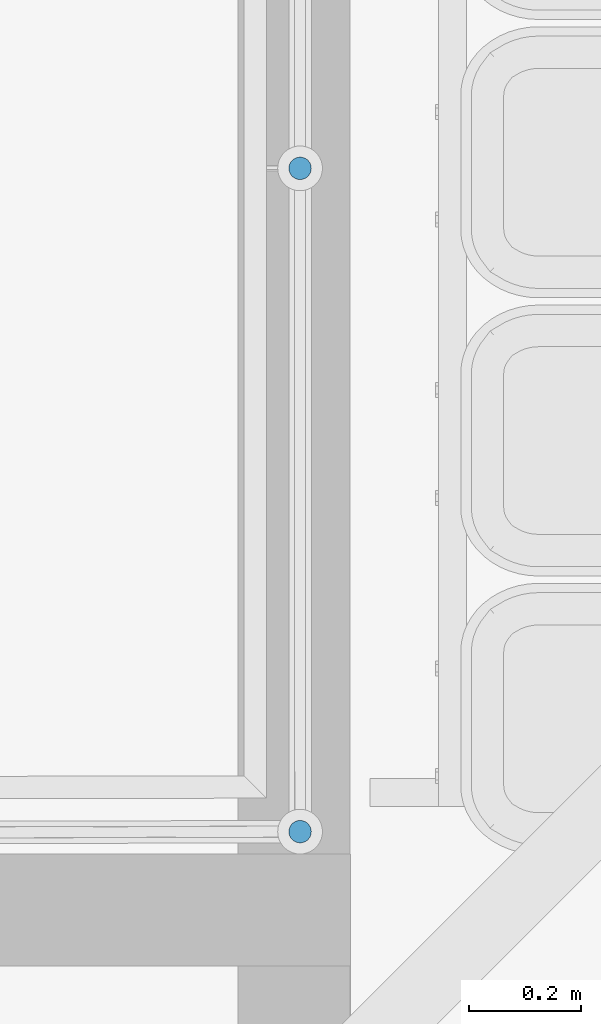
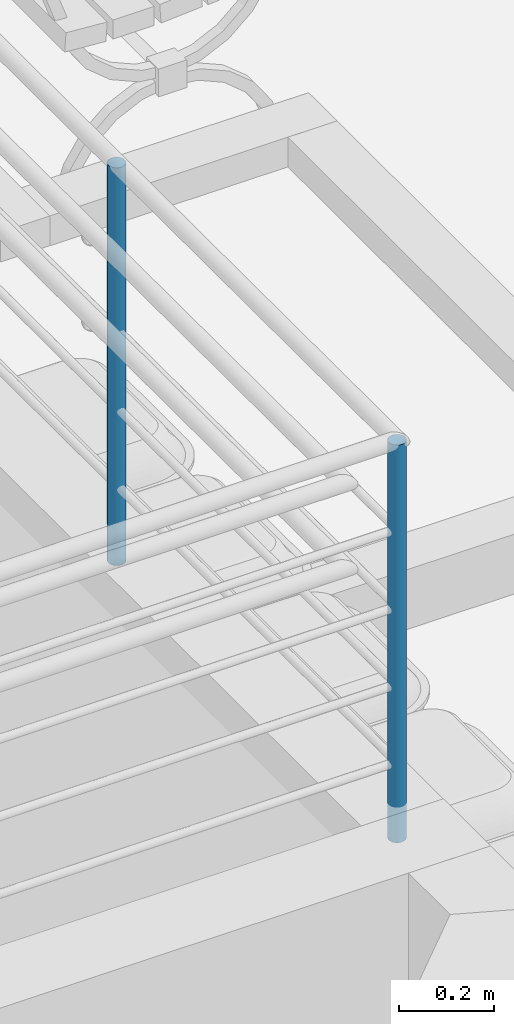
# One storey, part 70 of 237: 2 building element parts, 1 element without a shape of its own.
"""IFC2X3 building model written with IfcOpenShell, lengths in millimetres."""

from ifc_helpers import new_model, entity, si_unit, converted_unit, derived_unit, money_unit, direction, frame, origin_with_axes, place, context, subcontext, project, spatial, faceted_brep, material, type_object, element, aggregate, save


model = new_model("IFC2X3")

# Units and contexts
model_context = context("Model", 3, precision=0.01, world=origin_with_axes(), true_north=direction((0.0, 1.0)))
body_context = subcontext(model_context, "Body", "Model", "MODEL_VIEW")
ifc_project = project(units=[si_unit("LENGTHUNIT", "METRE", prefix="MILLI"), si_unit("AREAUNIT", "SQUARE_METRE"), si_unit("VOLUMEUNIT", "CUBIC_METRE"), converted_unit("PLANEANGLEUNIT", "DEGREE", entity("IfcPlaneAngleMeasure", 0.0174532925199), si_unit("PLANEANGLEUNIT", "RADIAN"), dimensions=[0, 0, 0, 0, 0, 0, 0]), money_unit("USD"), converted_unit("TIMEUNIT", "Year", entity("IfcTimeMeasure", 31556926.0), si_unit("TIMEUNIT", "SECOND"), dimensions=[0, 0, 1, 0, 0, 0, 0]), si_unit("MASSUNIT", "GRAM", prefix="KILO"), si_unit("THERMODYNAMICTEMPERATUREUNIT", "DEGREE_CELSIUS"), si_unit("LUMINOUSINTENSITYUNIT", "LUMEN"), si_unit("ENERGYUNIT", "JOULE", prefix="MEGA"), derived_unit("THERMALCONDUCTANCEUNIT", [(si_unit("POWERUNIT", "WATT"), 1), (si_unit("LENGTHUNIT", "METRE"), -1), (si_unit("THERMODYNAMICTEMPERATUREUNIT", "KELVIN"), -1)]), derived_unit("SPECIFICHEATCAPACITYUNIT", [(si_unit("ENERGYUNIT", "JOULE"), 1), (si_unit("MASSUNIT", "GRAM", prefix="KILO"), -1), (si_unit("THERMODYNAMICTEMPERATUREUNIT", "KELVIN"), -1)]), derived_unit("MASSDENSITYUNIT", [(si_unit("MASSUNIT", "GRAM", prefix="KILO"), 1), (si_unit("VOLUMEUNIT", "CUBIC_METRE"), -1)])], contexts=[model_context])

# Site, building, storey
site_placement = place(None, origin_with_axes())
site = spatial("IfcSite", under=ifc_project, at=site_placement, Name="Local", CompositionType="ELEMENT")
building_placement = place(site_placement, origin_with_axes())
building = spatial("IfcBuilding", under=site, at=building_placement, Name="Construção", CompositionType="ELEMENT")
storey_placement = place(building_placement, origin_with_axes())
storey = spatial("IfcBuildingStorey", under=building, at=storey_placement, Name="Pavimento Térreo", CompositionType="ELEMENT", Elevation=0.0)

# Railing, building element parts
railing_type = type_object("IfcRailingType", Name="Tipo de Guarda-Corpo", PredefinedType="NOTDEFINED")
railing_placement = place(storey_placement, frame((84562.8908804, 21657.2175927, -4868.39227091), z_axis=(0.0, 0.0, 1.0), x_axis=(1.0, 0.0, 0.0)))
railing = element("IfcRailing", 1, at=railing_placement, inside=storey, type_object=railing_type, Name="Guarda-Corpo - 002", PredefinedType="NOTDEFINED")
ifc_material = material(Name="Aço - Inoxidável")
building_element_part_1_placement = place(railing_placement, origin_with_axes())
building_element_part_1 = element("IfcBuildingElementPart", 2, at=building_element_part_1_placement, material=ifc_material, Name="Aço - Inoxidável", context=body_context, shape_type="Brep", body=[
    faceted_brep([(2107.07019743, 2020.13786976, 1363.49097321), (2110.54381581, 2019.8416047, 1363.49097321), (2110.54382251, 2019.84160471, 2388.51923821), (2107.07020403, 2020.13786977, 2388.51963657), (2114.016108, 2020.15302807, 1363.49097321), (2103.70079701, 2021.03282139, 1363.49097321), (2100.53799208, 2022.49926693, 1363.49097321), (2097.67788285, 2024.49264919, 1363.49097321), (2095.2073723, 2026.95240024, 1363.49097321), (2093.20152565, 2029.8037818, 1363.49097321), (2091.72128952, 2032.96015609, 1363.49097321), (2090.81164015, 2036.32561826, 1363.49097321), (2090.50021678, 2039.79791045, 1363.49097321), (2090.79648183, 2043.27152883, 1363.49097321), (2091.69143345, 2046.64092924, 1363.49097321), (2093.15787899, 2049.80373418, 1363.49097321), (2095.15126124, 2052.6638434, 1363.49097321), (2097.61101229, 2055.13435395, 1363.49097321), (2100.46239385, 2057.14020059, 1363.49097321), (2103.61876813, 2058.62043671, 1363.49097321), (2106.9842303, 2059.53008608, 1363.49097321), (2110.4565225, 2059.84150945, 1363.49097321), (2113.93014087, 2059.54524439, 1363.49097321), (2117.29954129, 2058.65029276, 1363.49097321), (2120.46234623, 2057.18384722, 1363.49097321), (2123.32245545, 2055.19046496, 1363.49097321), (2125.792966, 2052.73071391, 1363.49097321), (2127.79881265, 2049.87933234, 1363.49097321), (2129.27904878, 2046.72295806, 1363.49097321), (2130.18869815, 2043.35749589, 1363.49097321), (2130.50012153, 2039.8852037, 1363.49097321), (2130.20385647, 2036.41158532, 1363.49097321), (2129.30890485, 2033.0421849, 1363.49097321), (2127.84245931, 2029.87937997, 1363.49097321), (2125.84907706, 2027.01927075, 1363.49097321), (2123.38932601, 2024.5487602, 1363.49097321), (2120.53794445, 2022.54291355, 1363.49097321), (2117.38157017, 2021.06267744, 1363.49097321), (2114.0161146, 2020.15302809, 2388.51798103), (2090.79648067, 2043.27152882, 2388.49075957), (2090.50021678, 2039.79791045, 2388.49574016), (2090.81164132, 2036.32561826, 2388.5005759), (2091.72129182, 2032.96015609, 2388.50511987), (2093.201529, 2029.80378181, 2388.50923401), (2095.20737661, 2026.95240025, 2388.51279329), (2097.67788798, 2024.4926492, 2388.51568959), (2100.53799788, 2022.49926695, 2388.51783489), (2103.70080331, 2021.0328214, 2388.51916401), (2117.38157647, 2021.06267745, 2388.51590323), (2120.53795026, 2022.54291357, 2388.51306794), (2123.38933114, 2024.54876021, 2388.50956132), (2125.84908137, 2027.01927076, 2388.50548991), (2127.84246266, 2029.87937998, 2388.50097741), (2129.30890714, 2033.04218491, 2388.49616095), (2130.20385763, 2036.41158532, 2388.49118685), (2130.50012153, 2039.8852037, 2388.48620627), (2130.18869698, 2043.35749589, 2388.48137052), (2129.27904648, 2046.72295806, 2388.47682655), (2127.7988093, 2049.87933234, 2388.47271242), (2125.79296169, 2052.7307139, 2388.46915313), (2123.32245032, 2055.19046495, 2388.46625683), (2120.46234042, 2057.1838472, 2388.46411153), (2117.29953499, 2058.65029275, 2388.46278241), (2113.93013427, 2059.54524437, 2388.46230985), (2110.45651579, 2059.84150943, 2388.46270822), (2106.9842237, 2059.53008606, 2388.4639654), (2103.61876183, 2058.6204367, 2388.46604319), (2100.46238805, 2057.14020058, 2388.46887848), (2097.61100716, 2055.13435393, 2388.4723851), (2095.15125693, 2052.66384339, 2388.47645651), (2093.15787564, 2049.80373417, 2388.48096901), (2091.69143116, 2046.64092924, 2388.48578548)], [[[0, 1, 2, 3]], [[4, 1, 0, 5, 6, 7, 8, 9, 10, 11, 12, 13, 14, 15, 16, 17, 18, 19, 20, 21, 22, 23, 24, 25, 26, 27, 28, 29, 30, 31, 32, 33, 34, 35, 36, 37]], [[1, 4, 38, 2]], [[39, 40, 41, 42, 43, 44, 45, 46, 47, 3, 2, 38, 48, 49, 50, 51, 52, 53, 54, 55, 56, 57, 58, 59, 60, 61, 62, 63, 64, 65, 66, 67, 68, 69, 70, 71]], [[5, 0, 3, 47]], [[6, 5, 47, 46]], [[7, 6, 46, 45]], [[8, 7, 45, 44]], [[9, 8, 44, 43]], [[10, 9, 43, 42]], [[11, 10, 42, 41]], [[12, 11, 41, 40]], [[13, 12, 40, 39]], [[14, 13, 39, 71]], [[15, 14, 71, 70]], [[16, 15, 70, 69]], [[17, 16, 69, 68]], [[18, 17, 68, 67]], [[19, 18, 67, 66]], [[20, 19, 66, 65]], [[21, 20, 65, 64]], [[22, 21, 64, 63]], [[23, 22, 63, 62]], [[24, 23, 62, 61]], [[25, 24, 61, 60]], [[26, 25, 60, 59]], [[27, 26, 59, 58]], [[28, 27, 58, 57]], [[29, 28, 57, 56]], [[30, 29, 56, 55]], [[31, 30, 55, 54]], [[32, 31, 54, 53]], [[33, 32, 53, 52]], [[34, 33, 52, 51]], [[35, 34, 51, 50]], [[36, 35, 50, 49]], [[37, 36, 49, 48]], [[4, 37, 48, 38]]]),
])
building_element_part_2_placement = place(railing_placement, origin_with_axes())
building_element_part_2 = element("IfcBuildingElementPart", 3, at=building_element_part_2_placement, material=ifc_material, Name="Aço - Inoxidável", context=body_context, shape_type="Brep", body=[
    faceted_brep([(2130.19632421, 3220.50416523, 1360.07820279), (2130.50016915, 3223.97712879, 1360.07820279), (2130.50016915, 3223.97712879, 2385.07820279), (2130.19632421, 3220.50416523, 2385.08801916), (2130.19632421, 3227.45009234, 1360.07820279), (2129.29402157, 3217.13672592, 1360.07820279), (2127.82067723, 3213.97712879, 1360.07820279), (2125.82105801, 3211.12137659, 1360.07820279), (2123.35592134, 3208.65623992, 1360.07820279), (2120.50016915, 3206.65662071, 1360.07820279), (2117.34057202, 3205.18327637, 1360.07820279), (2113.9731327, 3204.28097373, 1360.07820279), (2110.50016915, 3203.97712879, 1360.07820279), (2107.0272056, 3204.28097373, 1360.07820279), (2103.65976628, 3205.18327637, 1360.07820279), (2100.50016915, 3206.65662071, 1360.07820279), (2097.64441696, 3208.65623992, 1360.07820279), (2095.17928029, 3211.12137659, 1360.07820279), (2093.17966108, 3213.97712879, 1360.07820279), (2091.70631674, 3217.13672592, 1360.07820279), (2090.80401409, 3220.50416523, 1360.07820279), (2090.50016915, 3223.97712879, 1360.07820279), (2090.80401409, 3227.45009234, 1360.07820279), (2091.70631674, 3230.81753165, 1360.07820279), (2093.17966108, 3233.97712879, 1360.07820279), (2095.17928029, 3236.83288098, 1360.07820279), (2097.64441696, 3239.29801765, 1360.07820279), (2100.50016915, 3241.29763686, 1360.07820279), (2103.65976628, 3242.7709812, 1360.07820279), (2107.0272056, 3243.67328385, 1360.07820279), (2110.50016915, 3243.97712879, 1360.07820279), (2113.9731327, 3243.67328385, 1360.07820279), (2117.34057202, 3242.7709812, 1360.07820279), (2120.50016915, 3241.29763686, 1360.07820279), (2123.35592134, 3239.29801765, 1360.07820279), (2125.82105801, 3236.83288098, 1360.07820279), (2127.82067723, 3233.97712879, 1360.07820279), (2129.29402157, 3230.81753165, 1360.07820279), (2130.19632421, 3227.45009234, 2385.06838642), (2107.0272056, 3204.28097373, 2385.13387421), (2110.50016915, 3203.97712879, 2385.13473303), (2113.9731327, 3204.28097373, 2385.13387421), (2117.34057202, 3205.18327637, 2385.13132384), (2120.50016915, 3206.65662071, 2385.12715941), (2123.35592134, 3208.65623992, 2385.12150747), (2125.82105801, 3211.12137659, 2385.11453973), (2127.82067723, 3213.97712879, 2385.10646791), (2129.29402157, 3217.13672592, 2385.09753727), (2129.29402157, 3230.81753165, 2385.05886831), (2127.82067723, 3233.97712879, 2385.04993767), (2125.82105801, 3236.83288098, 2385.04186585), (2123.35592134, 3239.29801765, 2385.03489811), (2120.50016915, 3241.29763686, 2385.02924617), (2117.34057202, 3242.7709812, 2385.02508174), (2113.9731327, 3243.67328385, 2385.02253137), (2110.50016915, 3243.97712879, 2385.02167255), (2107.0272056, 3243.67328385, 2385.02253137), (2103.65976628, 3242.7709812, 2385.02508174), (2100.50016915, 3241.29763686, 2385.02924617), (2097.64441696, 3239.29801765, 2385.03489811), (2095.17928029, 3236.83288098, 2385.04186585), (2093.17966108, 3233.97712879, 2385.04993767), (2091.70631674, 3230.81753165, 2385.05886831), (2090.80401409, 3227.45009234, 2385.06838642), (2090.50016915, 3223.97712879, 2385.07820279), (2090.80401409, 3220.50416523, 2385.08801916), (2091.70631674, 3217.13672592, 2385.09753727), (2093.17966108, 3213.97712879, 2385.10646791), (2095.17928029, 3211.12137659, 2385.11453973), (2097.64441696, 3208.65623992, 2385.12150747), (2100.50016915, 3206.65662071, 2385.12715941), (2103.65976628, 3205.18327637, 2385.13132384)], [[[0, 1, 2, 3]], [[4, 1, 0, 5, 6, 7, 8, 9, 10, 11, 12, 13, 14, 15, 16, 17, 18, 19, 20, 21, 22, 23, 24, 25, 26, 27, 28, 29, 30, 31, 32, 33, 34, 35, 36, 37]], [[1, 4, 38, 2]], [[39, 40, 41, 42, 43, 44, 45, 46, 47, 3, 2, 38, 48, 49, 50, 51, 52, 53, 54, 55, 56, 57, 58, 59, 60, 61, 62, 63, 64, 65, 66, 67, 68, 69, 70, 71]], [[5, 0, 3, 47]], [[6, 5, 47, 46]], [[7, 6, 46, 45]], [[8, 7, 45, 44]], [[9, 8, 44, 43]], [[10, 9, 43, 42]], [[11, 10, 42, 41]], [[12, 11, 41, 40]], [[13, 12, 40, 39]], [[14, 13, 39, 71]], [[15, 14, 71, 70]], [[16, 15, 70, 69]], [[17, 16, 69, 68]], [[18, 17, 68, 67]], [[19, 18, 67, 66]], [[20, 19, 66, 65]], [[21, 20, 65, 64]], [[22, 21, 64, 63]], [[23, 22, 63, 62]], [[24, 23, 62, 61]], [[25, 24, 61, 60]], [[26, 25, 60, 59]], [[27, 26, 59, 58]], [[28, 27, 58, 57]], [[29, 28, 57, 56]], [[30, 29, 56, 55]], [[31, 30, 55, 54]], [[32, 31, 54, 53]], [[33, 32, 53, 52]], [[34, 33, 52, 51]], [[35, 34, 51, 50]], [[36, 35, 50, 49]], [[37, 36, 49, 48]], [[4, 37, 48, 38]]]),
])
aggregate(railing, [building_element_part_1, building_element_part_2])

save(model, "model.ifc")
